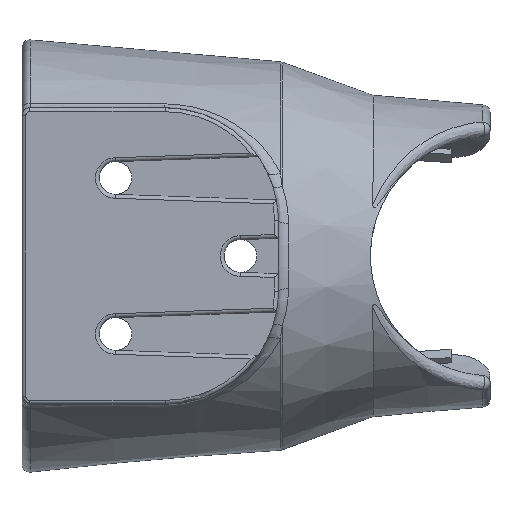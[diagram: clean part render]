
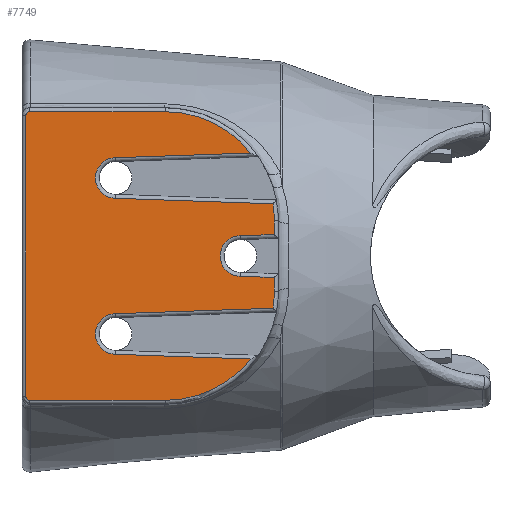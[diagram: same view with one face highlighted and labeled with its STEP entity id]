
A CAD part, left-side view. The second image highlights one B-rep face of the part: STEP entity #7749.
In plain terms, the highlighted planar face has unit normal (-1, 0, 0).
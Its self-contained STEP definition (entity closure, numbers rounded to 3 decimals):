
#525=DIRECTION('',(0.,0.,1.));
#526=VECTOR('',#525,36.);
#527=CARTESIAN_POINT('',(-28.,59.5,-18.));
#528=LINE('',#527,#526);
#1897=CARTESIAN_POINT('',(-28.,59.,-18.));
#1898=DIRECTION('',(-1.,0.,0.));
#1899=DIRECTION('',(0.,1.,0.));
#1900=AXIS2_PLACEMENT_3D('',#1897,#1898,#1899);
#1902=CARTESIAN_POINT('',(-28.,59.,18.));
#1903=DIRECTION('',(-1.,0.,0.));
#1904=DIRECTION('',(0.,0.,1.));
#1905=AXIS2_PLACEMENT_3D('',#1902,#1903,#1904);
#1907=CARTESIAN_POINT('',(-28.,41.65,4.5));
#1908=DIRECTION('',(-1.,0.,0.));
#1909=DIRECTION('',(0.,-0.783,0.622));
#1910=AXIS2_PLACEMENT_3D('',#1907,#1908,#1909);
#1912=DIRECTION('',(0.,-0.999,0.035));
#1913=VECTOR('',#1912,17.334);
#1914=CARTESIAN_POINT('',(-28.,48.009,12.6));
#1915=LINE('',#1914,#1913);
#1916=CARTESIAN_POINT('',(-28.,48.,10.));
#1917=DIRECTION('',(1.,0.,0.));
#1918=DIRECTION('',(0.,0.004,-1.));
#1919=AXIS2_PLACEMENT_3D('',#1916,#1917,#1918);
#1921=DIRECTION('',(0.,0.999,0.035));
#1922=VECTOR('',#1921,20.198);
#1923=CARTESIAN_POINT('',(-28.,27.823,6.695));
#1924=LINE('',#1923,#1922);
#1925=CARTESIAN_POINT('',(-28.,41.65,4.5));
#1926=DIRECTION('',(-1.,0.,0.));
#1927=DIRECTION('',(0.,-1.,0.));
#1928=AXIS2_PLACEMENT_3D('',#1925,#1926,#1927);
#1930=DIRECTION('',(0.,-0.999,0.035));
#1931=VECTOR('',#1930,4.362);
#1932=CARTESIAN_POINT('',(-28.,32.009,2.6));
#1933=LINE('',#1932,#1931);
#1934=CARTESIAN_POINT('',(-28.,32.,0.));
#1935=DIRECTION('',(1.,0.,0.));
#1936=DIRECTION('',(0.,0.004,-1.));
#1937=AXIS2_PLACEMENT_3D('',#1934,#1935,#1936);
#1939=DIRECTION('',(0.,0.999,0.035));
#1940=VECTOR('',#1939,4.362);
#1941=CARTESIAN_POINT('',(-28.,27.65,-2.752));
#1942=LINE('',#1941,#1940);
#1943=CARTESIAN_POINT('',(-28.,41.65,-4.5));
#1944=DIRECTION('',(-1.,0.,0.));
#1945=DIRECTION('',(0.,-0.988,-0.157));
#1946=AXIS2_PLACEMENT_3D('',#1943,#1944,#1945);
#1948=DIRECTION('',(0.,-0.999,0.035));
#1949=VECTOR('',#1948,20.198);
#1950=CARTESIAN_POINT('',(-28.,48.009,-7.4));
#1951=LINE('',#1950,#1949);
#1952=CARTESIAN_POINT('',(-28.,48.,-10.));
#1953=DIRECTION('',(1.,0.,0.));
#1954=DIRECTION('',(0.,0.004,-1.));
#1955=AXIS2_PLACEMENT_3D('',#1952,#1953,#1954);
#1957=DIRECTION('',(0.,0.999,0.035));
#1958=VECTOR('',#1957,17.334);
#1959=CARTESIAN_POINT('',(-28.,30.686,-13.205));
#1960=LINE('',#1959,#1958);
#1961=CARTESIAN_POINT('',(-28.,41.65,-4.5));
#1962=DIRECTION('',(-1.,0.,0.));
#1963=DIRECTION('',(0.,0.,-1.));
#1964=AXIS2_PLACEMENT_3D('',#1961,#1962,#1963);
#1970=DIRECTION('',(0.,-1.,0.));
#1971=VECTOR('',#1970,17.35);
#1972=CARTESIAN_POINT('',(-28.,59.,18.5));
#1973=LINE('',#1972,#1971);
#2349=CARTESIAN_POINT('',(-28.,48.009,7.4));
#2374=DIRECTION('',(0.,0.,-1.));
#2375=VECTOR('',#2374,1.748);
#2376=CARTESIAN_POINT('',(-28.,27.65,4.5));
#2377=LINE('',#2376,#2375);
#2389=CARTESIAN_POINT('',(-28.,27.65,2.752));
#2420=DIRECTION('',(0.,0.,-1.));
#2421=VECTOR('',#2420,1.748);
#2422=CARTESIAN_POINT('',(-28.,27.65,-2.752));
#2423=LINE('',#2422,#2421);
#2460=CARTESIAN_POINT('',(-28.,48.009,-7.4));
#2562=CARTESIAN_POINT('',(-28.,30.686,-13.205));
#2597=DIRECTION('',(0.,1.,0.));
#2598=VECTOR('',#2597,17.35);
#2599=CARTESIAN_POINT('',(-28.,41.65,-18.5));
#2600=LINE('',#2599,#2598);
#3428=CARTESIAN_POINT('',(-28.,27.65,-2.752));
#3429=CARTESIAN_POINT('',(-28.,27.65,-4.5));
#3430=VERTEX_POINT('',#3428);
#3431=VERTEX_POINT('',#3429);
#3441=VERTEX_POINT('',#2389);
#3453=CARTESIAN_POINT('',(-28.,59.5,-18.));
#3454=CARTESIAN_POINT('',(-28.,59.,-18.5));
#3455=VERTEX_POINT('',#3453);
#3456=VERTEX_POINT('',#3454);
#3457=CARTESIAN_POINT('',(-28.,59.5,18.));
#3458=VERTEX_POINT('',#3457);
#3479=VERTEX_POINT('',#2460);
#3528=CARTESIAN_POINT('',(-28.,27.823,-6.695));
#3529=VERTEX_POINT('',#3528);
#3539=CARTESIAN_POINT('',(-28.,27.65,4.5));
#3541=VERTEX_POINT('',#3539);
#3599=CARTESIAN_POINT('',(-28.,59.,18.5));
#3600=VERTEX_POINT('',#3599);
#3666=CARTESIAN_POINT('',(-28.,30.686,13.205));
#3667=CARTESIAN_POINT('',(-28.,41.65,18.5));
#3668=VERTEX_POINT('',#3666);
#3669=VERTEX_POINT('',#3667);
#3681=CARTESIAN_POINT('',(-28.,41.65,-18.5));
#3682=VERTEX_POINT('',#3681);
#3738=VERTEX_POINT('',#2562);
#3760=CARTESIAN_POINT('',(-28.,48.009,-12.6));
#3761=VERTEX_POINT('',#3760);
#3784=CARTESIAN_POINT('',(-28.,27.823,6.695));
#3785=VERTEX_POINT('',#3784);
#3786=VERTEX_POINT('',#2349);
#3789=CARTESIAN_POINT('',(-28.,48.009,12.6));
#3790=VERTEX_POINT('',#3789);
#3862=CARTESIAN_POINT('',(-28.,32.009,2.6));
#3863=VERTEX_POINT('',#3862);
#3900=CARTESIAN_POINT('',(-28.,32.009,-2.6));
#3901=VERTEX_POINT('',#3900);
#7705=CARTESIAN_POINT('',(-28.,60.,-19.));
#7706=DIRECTION('',(-1.,0.,0.));
#7707=DIRECTION('',(0.,0.,1.));
#7708=AXIS2_PLACEMENT_3D('',#7705,#7706,#7707);
#7709=PLANE('',#7708);
#7710=ORIENTED_EDGE('',*,*,#7684,.F.);
#7711=ORIENTED_EDGE('',*,*,#4455,.T.);
#7712=ORIENTED_EDGE('',*,*,#4987,.F.);
#7714=ORIENTED_EDGE('',*,*,#7713,.T.);
#7716=ORIENTED_EDGE('',*,*,#7715,.F.);
#7718=ORIENTED_EDGE('',*,*,#7717,.F.);
#7720=ORIENTED_EDGE('',*,*,#7719,.F.);
#7722=ORIENTED_EDGE('',*,*,#7721,.F.);
#7724=ORIENTED_EDGE('',*,*,#7723,.F.);
#7726=ORIENTED_EDGE('',*,*,#7725,.T.);
#7728=ORIENTED_EDGE('',*,*,#7727,.F.);
#7730=ORIENTED_EDGE('',*,*,#7729,.F.);
#7732=ORIENTED_EDGE('',*,*,#7731,.F.);
#7734=ORIENTED_EDGE('',*,*,#7733,.T.);
#7736=ORIENTED_EDGE('',*,*,#7735,.F.);
#7738=ORIENTED_EDGE('',*,*,#7737,.F.);
#7740=ORIENTED_EDGE('',*,*,#7739,.F.);
#7742=ORIENTED_EDGE('',*,*,#7741,.F.);
#7744=ORIENTED_EDGE('',*,*,#7743,.F.);
#7746=ORIENTED_EDGE('',*,*,#7745,.T.);
#7747=EDGE_LOOP('',(#7710,#7711,#7712,#7714,#7716,#7718,#7720,#7722,#7724,#7726,
#7728,#7730,#7732,#7734,#7736,#7738,#7740,#7742,#7744,#7746));
#7748=FACE_OUTER_BOUND('',#7747,.F.);
#1901=CIRCLE('',#1900,0.5);
#1906=CIRCLE('',#1905,0.5);
#1911=CIRCLE('',#1910,14.);
#1920=CIRCLE('',#1919,2.6);
#1929=CIRCLE('',#1928,14.);
#1938=CIRCLE('',#1937,2.6);
#1947=CIRCLE('',#1946,14.);
#1956=CIRCLE('',#1955,2.6);
#1965=CIRCLE('',#1964,14.);
#4455=EDGE_CURVE('',#3455,#3458,#528,.T.);
#4987=EDGE_CURVE('',#3600,#3458,#1906,.T.);
#7684=EDGE_CURVE('',#3455,#3456,#1901,.T.);
#7713=EDGE_CURVE('',#3600,#3669,#1973,.T.);
#7715=EDGE_CURVE('',#3668,#3669,#1911,.T.);
#7717=EDGE_CURVE('',#3790,#3668,#1915,.T.);
#7719=EDGE_CURVE('',#3786,#3790,#1920,.T.);
#7721=EDGE_CURVE('',#3785,#3786,#1924,.T.);
#7723=EDGE_CURVE('',#3541,#3785,#1929,.T.);
#7725=EDGE_CURVE('',#3541,#3441,#2377,.T.);
#7727=EDGE_CURVE('',#3863,#3441,#1933,.T.);
#7729=EDGE_CURVE('',#3901,#3863,#1938,.T.);
#7731=EDGE_CURVE('',#3430,#3901,#1942,.T.);
#7733=EDGE_CURVE('',#3430,#3431,#2423,.T.);
#7735=EDGE_CURVE('',#3529,#3431,#1947,.T.);
#7737=EDGE_CURVE('',#3479,#3529,#1951,.T.);
#7739=EDGE_CURVE('',#3761,#3479,#1956,.T.);
#7741=EDGE_CURVE('',#3738,#3761,#1960,.T.);
#7743=EDGE_CURVE('',#3682,#3738,#1965,.T.);
#7745=EDGE_CURVE('',#3682,#3456,#2600,.T.);
#7749=ADVANCED_FACE('',(#7748),#7709,.T.);
